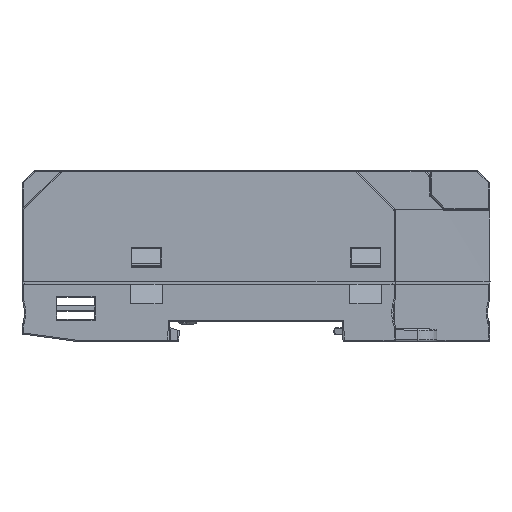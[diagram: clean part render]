
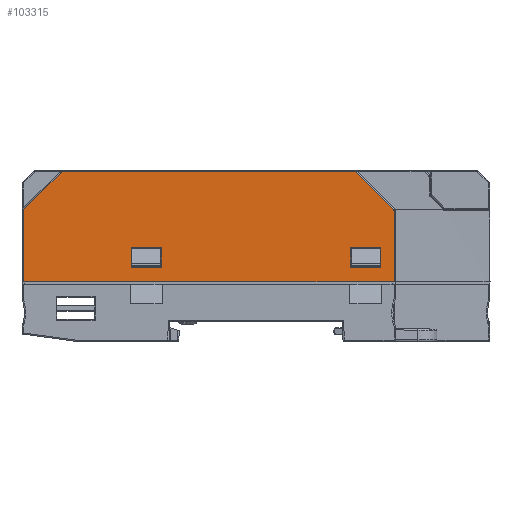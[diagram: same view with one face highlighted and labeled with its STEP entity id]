
A CAD part, left-side view. The second image highlights one B-rep face of the part: STEP entity #103315.
In plain terms, the highlighted planar face has unit normal (-1, 0, 0).
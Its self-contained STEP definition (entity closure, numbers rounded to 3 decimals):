
#11094=DIRECTION('',(0.,0.,1.));
#11095=VECTOR('',#11094,14.593);
#11096=CARTESIAN_POINT('',(-50.,-28.35,0.5));
#11097=LINE('',#11096,#11095);
#11102=CARTESIAN_POINT('',(-50.,47.5,15.093));
#11103=DIRECTION('',(1.,0.,0.));
#11104=DIRECTION('',(0.,1.,0.));
#11105=AXIS2_PLACEMENT_3D('',#11102,#11103,#11104);
#11107=DIRECTION('',(0.,-0.707,0.707));
#11108=VECTOR('',#11107,10.899);
#11109=CARTESIAN_POINT('',(-50.,47.677,15.27));
#11110=LINE('',#11109,#11108);
#11111=CARTESIAN_POINT('',(-50.,39.793,22.8));
#11112=DIRECTION('',(1.,0.,0.));
#11113=DIRECTION('',(0.,0.707,0.707));
#11114=AXIS2_PLACEMENT_3D('',#11111,#11112,#11113);
#11116=CARTESIAN_POINT('',(-50.,-20.393,
22.8));
#11117=DIRECTION('',(1.,0.,0.));
#11118=DIRECTION('',(0.,0.,1.));
#11119=AXIS2_PLACEMENT_3D('',#11116,#11117,#11118);
#11121=DIRECTION('',(0.,-0.707,-0.707));
#11122=VECTOR('',#11121,10.899);
#11123=CARTESIAN_POINT('',(-50.,-20.57,22.977));
#11124=LINE('',#11123,#11122);
#11125=CARTESIAN_POINT('',(-50.,-28.1,15.093));
#11126=DIRECTION('',(1.,0.,0.));
#11127=DIRECTION('',(0.,-0.707,0.707));
#11128=AXIS2_PLACEMENT_3D('',#11125,#11126,#11127);
#11130=DIRECTION('',(0.,1.,0.));
#11131=VECTOR('',#11130,76.1);
#11132=CARTESIAN_POINT('',(-50.,-28.35,0.5));
#11133=LINE('',#11132,#11131);
#11138=DIRECTION('',(0.,0.,-1.));
#11139=VECTOR('',#11138,14.593);
#11140=CARTESIAN_POINT('',(-50.,47.75,15.093));
#11141=LINE('',#11140,#11139);
#12114=DIRECTION('',(0.,1.,0.));
#12115=VECTOR('',#12114,60.186);
#12116=CARTESIAN_POINT('',(-50.,-20.393,23.05));
#12117=LINE('',#12116,#12115);
#35063=DIRECTION('',(0.,-1.,0.));
#35064=VECTOR('',#35063,6.2);
#35065=CARTESIAN_POINT('',(-50.,25.6,7.5));
#35066=LINE('',#35065,#35064);
#35071=DIRECTION('',(0.,0.,1.));
#35072=VECTOR('',#35071,4.);
#35073=CARTESIAN_POINT('',(-50.,25.6,3.5));
#35074=LINE('',#35073,#35072);
#35079=DIRECTION('',(0.,1.,0.));
#35080=VECTOR('',#35079,6.2);
#35081=CARTESIAN_POINT('',(-50.,19.4,3.5));
#35082=LINE('',#35081,#35080);
#35087=DIRECTION('',(0.,0.,-1.));
#35088=VECTOR('',#35087,4.);
#35089=CARTESIAN_POINT('',(-50.,19.4,7.5));
#35090=LINE('',#35089,#35088);
#35095=DIRECTION('',(0.,-1.,0.));
#35096=VECTOR('',#35095,6.2);
#35097=CARTESIAN_POINT('',(-50.,-19.4,7.5));
#35098=LINE('',#35097,#35096);
#35103=DIRECTION('',(0.,0.,1.));
#35104=VECTOR('',#35103,4.);
#35105=CARTESIAN_POINT('',(-50.,-19.4,3.5));
#35106=LINE('',#35105,#35104);
#35111=DIRECTION('',(0.,1.,0.));
#35112=VECTOR('',#35111,6.2);
#35113=CARTESIAN_POINT('',(-50.,-25.6,3.5));
#35114=LINE('',#35113,#35112);
#35119=DIRECTION('',(0.,0.,-1.));
#35120=VECTOR('',#35119,4.);
#35121=CARTESIAN_POINT('',(-50.,-25.6,7.5));
#35122=LINE('',#35121,#35120);
#69068=CARTESIAN_POINT('',(-50.,47.75,0.5));
#69069=VERTEX_POINT('',#69068);
#69070=CARTESIAN_POINT('',(-50.,-28.35,0.5));
#69071=VERTEX_POINT('',#69070);
#72874=CARTESIAN_POINT('',(-50.,39.793,23.05));
#72875=VERTEX_POINT('',#72874);
#72876=CARTESIAN_POINT('',(-50.,39.97,22.977));
#72877=VERTEX_POINT('',#72876);
#72878=CARTESIAN_POINT('',(-50.,-20.393,23.05));
#72879=VERTEX_POINT('',#72878);
#72880=CARTESIAN_POINT('',(-50.,47.75,15.093));
#72881=VERTEX_POINT('',#72880);
#72882=CARTESIAN_POINT('',(-50.,47.677,15.27));
#72883=VERTEX_POINT('',#72882);
#72884=CARTESIAN_POINT('',(-50.,-20.57,22.977));
#72885=VERTEX_POINT('',#72884);
#72886=CARTESIAN_POINT('',(-50.,-28.277,15.27));
#72887=VERTEX_POINT('',#72886);
#72888=CARTESIAN_POINT('',(-50.,-28.35,15.093));
#72889=VERTEX_POINT('',#72888);
#72890=CARTESIAN_POINT('',(-50.,25.6,7.5));
#72891=CARTESIAN_POINT('',(-50.,19.4,7.5));
#72892=VERTEX_POINT('',#72890);
#72893=VERTEX_POINT('',#72891);
#72894=CARTESIAN_POINT('',(-50.,25.6,3.5));
#72895=VERTEX_POINT('',#72894);
#72896=CARTESIAN_POINT('',(-50.,19.4,3.5));
#72897=VERTEX_POINT('',#72896);
#72898=CARTESIAN_POINT('',(-50.,-19.4,7.5));
#72899=CARTESIAN_POINT('',(-50.,-25.6,7.5));
#72900=VERTEX_POINT('',#72898);
#72901=VERTEX_POINT('',#72899);
#72902=CARTESIAN_POINT('',(-50.,-19.4,3.5));
#72903=VERTEX_POINT('',#72902);
#72904=CARTESIAN_POINT('',(-50.,-25.6,3.5));
#72905=VERTEX_POINT('',#72904);
#103270=CARTESIAN_POINT('',(-50.,48.,0.));
#103271=DIRECTION('',(-1.,0.,0.));
#103272=DIRECTION('',(0.,-1.,0.));
#103273=AXIS2_PLACEMENT_3D('',#103270,#103271,#103272);
#103274=PLANE('',#103273);
#103276=ORIENTED_EDGE('',*,*,#103275,.F.);
#103278=ORIENTED_EDGE('',*,*,#103277,.T.);
#103280=ORIENTED_EDGE('',*,*,#103279,.T.);
#103282=ORIENTED_EDGE('',*,*,#103281,.T.);
#103284=ORIENTED_EDGE('',*,*,#103283,.F.);
#103286=ORIENTED_EDGE('',*,*,#103285,.T.);
#103288=ORIENTED_EDGE('',*,*,#103287,.T.);
#103290=ORIENTED_EDGE('',*,*,#103289,.T.);
#103291=ORIENTED_EDGE('',*,*,#103262,.F.);
#103292=ORIENTED_EDGE('',*,*,#89428,.T.);
#103293=EDGE_LOOP('',(#103276,#103278,#103280,#103282,#103284,#103286,#103288,
#103290,#103291,#103292));
#103294=FACE_OUTER_BOUND('',#103293,.F.);
#103296=ORIENTED_EDGE('',*,*,#103295,.F.);
#103298=ORIENTED_EDGE('',*,*,#103297,.F.);
#103300=ORIENTED_EDGE('',*,*,#103299,.F.);
#103302=ORIENTED_EDGE('',*,*,#103301,.F.);
#103303=EDGE_LOOP('',(#103296,#103298,#103300,#103302));
#103304=FACE_BOUND('',#103303,.F.);
#103306=ORIENTED_EDGE('',*,*,#103305,.F.);
#103308=ORIENTED_EDGE('',*,*,#103307,.F.);
#103310=ORIENTED_EDGE('',*,*,#103309,.F.);
#103312=ORIENTED_EDGE('',*,*,#103311,.F.);
#103313=EDGE_LOOP('',(#103306,#103308,#103310,#103312));
#103314=FACE_BOUND('',#103313,.F.);
#103315=ADVANCED_FACE('',(#103294,#103304,#103314),#103274,.T.);
#11106=CIRCLE('',#11105,0.25);
#11115=CIRCLE('',#11114,0.25);
#11120=CIRCLE('',#11119,0.25);
#11129=CIRCLE('',#11128,0.25);
#89428=EDGE_CURVE('',#69071,#69069,#11133,.T.);
#103262=EDGE_CURVE('',#69071,#72889,#11097,.T.);
#103275=EDGE_CURVE('',#72881,#69069,#11141,.T.);
#103277=EDGE_CURVE('',#72881,#72883,#11106,.T.);
#103279=EDGE_CURVE('',#72883,#72877,#11110,.T.);
#103281=EDGE_CURVE('',#72877,#72875,#11115,.T.);
#103283=EDGE_CURVE('',#72879,#72875,#12117,.T.);
#103285=EDGE_CURVE('',#72879,#72885,#11120,.T.);
#103287=EDGE_CURVE('',#72885,#72887,#11124,.T.);
#103289=EDGE_CURVE('',#72887,#72889,#11129,.T.);
#103295=EDGE_CURVE('',#72892,#72893,#35066,.T.);
#103297=EDGE_CURVE('',#72895,#72892,#35074,.T.);
#103299=EDGE_CURVE('',#72897,#72895,#35082,.T.);
#103301=EDGE_CURVE('',#72893,#72897,#35090,.T.);
#103305=EDGE_CURVE('',#72900,#72901,#35098,.T.);
#103307=EDGE_CURVE('',#72903,#72900,#35106,.T.);
#103309=EDGE_CURVE('',#72905,#72903,#35114,.T.);
#103311=EDGE_CURVE('',#72901,#72905,#35122,.T.);
